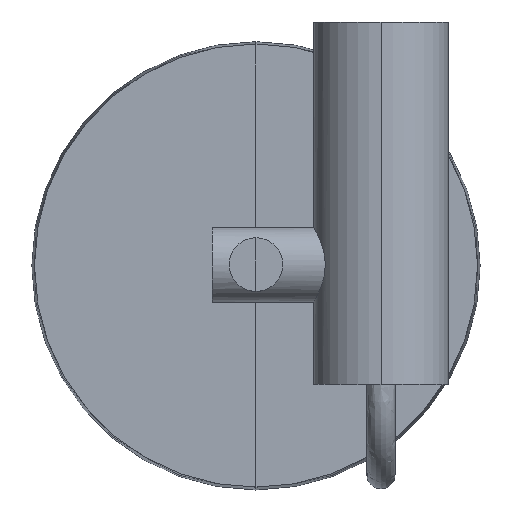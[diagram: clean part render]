
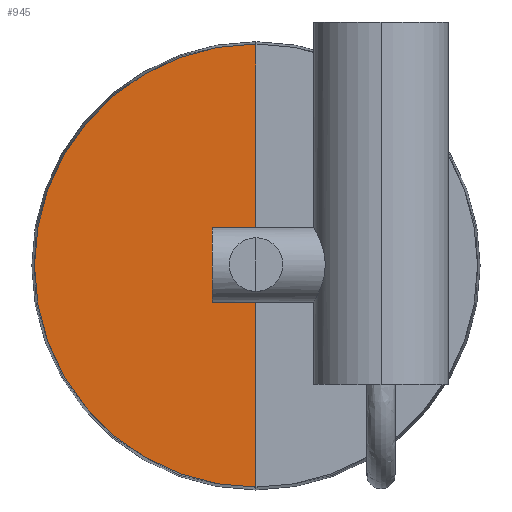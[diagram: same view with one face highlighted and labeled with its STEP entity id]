
A CAD part, top view. The second image highlights one B-rep face of the part: STEP entity #945.
In plain terms, the highlighted planar face has unit normal (0, 0, 1).
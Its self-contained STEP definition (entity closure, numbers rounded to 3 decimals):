
#140=FACE_OUTER_BOUND('',#211,.T.);
#211=EDGE_LOOP('',(#713,#714));
#276=CIRCLE('',#1023,59.302);
#344=LINE('',#1558,#402);
#402=VECTOR('',#1247,304.8);
#449=VERTEX_POINT('',#1511);
#450=VERTEX_POINT('',#1512);
#529=EDGE_CURVE('',#450,#449,#276,.T.);
#548=EDGE_CURVE('',#449,#450,#344,.T.);
#713=ORIENTED_EDGE('',*,*,#548,.T.);
#714=ORIENTED_EDGE('',*,*,#529,.T.);
#900=PLANE('',#1044);
#945=ADVANCED_FACE('',(#140),#900,.T.);
#1023=AXIS2_PLACEMENT_3D('',#1520,#1196,#1197);
#1044=AXIS2_PLACEMENT_3D('',#1559,#1248,#1249);
#1196=DIRECTION('center_axis',(0.,0.,1.));
#1197=DIRECTION('ref_axis',(-0.588,0.809,0.));
#1247=DIRECTION('',(0.,1.,0.));
#1248=DIRECTION('center_axis',(0.,0.,1.));
#1249=DIRECTION('ref_axis',(0.,1.,0.));
#1511=CARTESIAN_POINT('',(0.,-59.302,41.));
#1512=CARTESIAN_POINT('',(0.,59.302,41.));
#1520=CARTESIAN_POINT('Origin',(0.,0.,
41.));
#1558=CARTESIAN_POINT('',(0.,0.,41.));
#1559=CARTESIAN_POINT('Origin',(0.,0.,41.));
